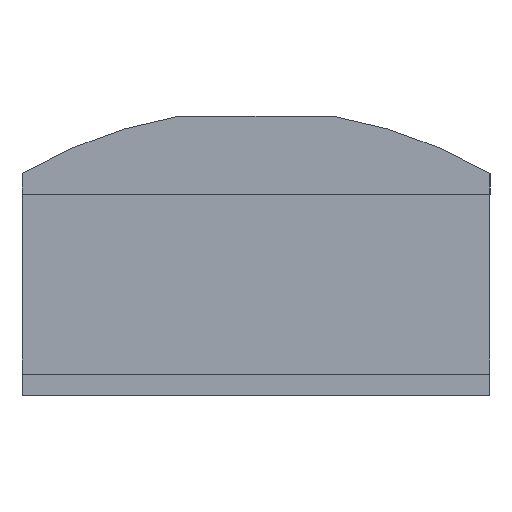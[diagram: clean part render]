
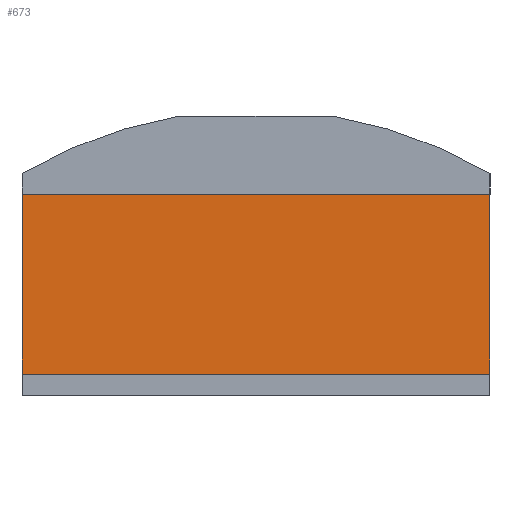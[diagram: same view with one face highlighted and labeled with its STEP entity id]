
A CAD part, left-side view. The second image highlights one B-rep face of the part: STEP entity #673.
In plain terms, the highlighted planar face has unit normal (-1, 0, 0).
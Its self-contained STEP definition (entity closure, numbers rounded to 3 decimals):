
#72 = PLANE('',#73);
#73 = AXIS2_PLACEMENT_3D('',#74,#75,#76);
#74 = CARTESIAN_POINT('',(187.2,-10.802,17.4));
#75 = DIRECTION('',(0.,0.,1.));
#76 = DIRECTION('',(1.,0.,-0.));
#275 = VERTEX_POINT('',#276);
#276 = CARTESIAN_POINT('',(212.8,-10.8,17.4));
#289 = PLANE('',#290);
#290 = AXIS2_PLACEMENT_3D('',#291,#292,#293);
#291 = CARTESIAN_POINT('',(212.8,-10.8,8.1));
#292 = DIRECTION('',(-0.,1.,0.));
#293 = DIRECTION('',(0.,0.,1.));
#301 = EDGE_CURVE('',#275,#302,#304,.T.);
#302 = VERTEX_POINT('',#303);
#303 = CARTESIAN_POINT('',(212.8,10.8,17.4));
#304 = SURFACE_CURVE('',#305,(#309,#315),.PCURVE_S1.);
#305 = LINE('',#306,#307);
#306 = CARTESIAN_POINT('',(212.8,-10.801,17.4));
#307 = VECTOR('',#308,1.);
#308 = DIRECTION('',(-0.,1.,0.));
#309 = PCURVE('',#72,#310);
#310 = DEFINITIONAL_REPRESENTATION('',(#311),#314);
#311 = B_SPLINE_CURVE_WITH_KNOTS('',1,(#312,#313),.UNSPECIFIED.,.F.,.F.,
  (2,2),(0.001,21.601),.PIECEWISE_BEZIER_KNOTS.);
#312 = CARTESIAN_POINT('',(25.6,0.002));
#313 = CARTESIAN_POINT('',(25.6,21.602));
#314 = ( GEOMETRIC_REPRESENTATION_CONTEXT(2) 
PARAMETRIC_REPRESENTATION_CONTEXT() REPRESENTATION_CONTEXT('2D SPACE',''
  ) );
#315 = PCURVE('',#316,#321);
#316 = PLANE('',#317);
#317 = AXIS2_PLACEMENT_3D('',#318,#319,#320);
#318 = CARTESIAN_POINT('',(212.8,-10.8,8.1));
#319 = DIRECTION('',(1.,0.,-0.));
#320 = DIRECTION('',(0.,0.,1.));
#321 = DEFINITIONAL_REPRESENTATION('',(#322),#325);
#322 = B_SPLINE_CURVE_WITH_KNOTS('',1,(#323,#324),.UNSPECIFIED.,.F.,.F.,
  (2,2),(0.001,21.601),.PIECEWISE_BEZIER_KNOTS.);
#323 = CARTESIAN_POINT('',(9.3,0.));
#324 = CARTESIAN_POINT('',(9.3,-21.6));
#325 = ( GEOMETRIC_REPRESENTATION_CONTEXT(2) 
PARAMETRIC_REPRESENTATION_CONTEXT() REPRESENTATION_CONTEXT('2D SPACE',''
  ) );
#342 = PLANE('',#343);
#343 = AXIS2_PLACEMENT_3D('',#344,#345,#346);
#344 = CARTESIAN_POINT('',(212.8,10.8,8.1));
#345 = DIRECTION('',(-0.,1.,0.));
#346 = DIRECTION('',(0.,0.,1.));
#458 = VERTEX_POINT('',#459);
#459 = CARTESIAN_POINT('',(212.8,-10.8,9.1));
#473 = PLANE('',#474);
#474 = AXIS2_PLACEMENT_3D('',#475,#476,#477);
#475 = CARTESIAN_POINT('',(211.6,-10.8,9.1));
#476 = DIRECTION('',(0.,0.,1.));
#477 = DIRECTION('',(1.,0.,-0.));
#485 = EDGE_CURVE('',#458,#275,#486,.T.);
#486 = SURFACE_CURVE('',#487,(#491,#498),.PCURVE_S1.);
#487 = LINE('',#488,#489);
#488 = CARTESIAN_POINT('',(212.8,-10.8,8.1));
#489 = VECTOR('',#490,1.);
#490 = DIRECTION('',(0.,0.,1.));
#491 = PCURVE('',#289,#492);
#492 = DEFINITIONAL_REPRESENTATION('',(#493),#497);
#493 = LINE('',#494,#495);
#494 = CARTESIAN_POINT('',(0.,0.));
#495 = VECTOR('',#496,1.);
#496 = DIRECTION('',(1.,0.));
#497 = ( GEOMETRIC_REPRESENTATION_CONTEXT(2) 
PARAMETRIC_REPRESENTATION_CONTEXT() REPRESENTATION_CONTEXT('2D SPACE',''
  ) );
#498 = PCURVE('',#316,#499);
#499 = DEFINITIONAL_REPRESENTATION('',(#500),#504);
#500 = LINE('',#501,#502);
#501 = CARTESIAN_POINT('',(0.,0.));
#502 = VECTOR('',#503,1.);
#503 = DIRECTION('',(1.,0.));
#504 = ( GEOMETRIC_REPRESENTATION_CONTEXT(2) 
PARAMETRIC_REPRESENTATION_CONTEXT() REPRESENTATION_CONTEXT('2D SPACE',''
  ) );
#513 = VERTEX_POINT('',#514);
#514 = CARTESIAN_POINT('',(212.8,10.8,9.1));
#557 = EDGE_CURVE('',#513,#458,#558,.T.);
#558 = SURFACE_CURVE('',#559,(#563,#569),.PCURVE_S1.);
#559 = LINE('',#560,#561);
#560 = CARTESIAN_POINT('',(212.8,-10.8,9.1));
#561 = VECTOR('',#562,1.);
#562 = DIRECTION('',(0.,-1.,0.));
#563 = PCURVE('',#473,#564);
#564 = DEFINITIONAL_REPRESENTATION('',(#565),#568);
#565 = B_SPLINE_CURVE_WITH_KNOTS('',1,(#566,#567),.UNSPECIFIED.,.F.,.F.,
  (2,2),(-21.6,0.),.PIECEWISE_BEZIER_KNOTS.);
#566 = CARTESIAN_POINT('',(1.2,21.6));
#567 = CARTESIAN_POINT('',(1.2,0.));
#568 = ( GEOMETRIC_REPRESENTATION_CONTEXT(2) 
PARAMETRIC_REPRESENTATION_CONTEXT() REPRESENTATION_CONTEXT('2D SPACE',''
  ) );
#569 = PCURVE('',#316,#570);
#570 = DEFINITIONAL_REPRESENTATION('',(#571),#574);
#571 = B_SPLINE_CURVE_WITH_KNOTS('',1,(#572,#573),.UNSPECIFIED.,.F.,.F.,
  (2,2),(-21.6,0.),.PIECEWISE_BEZIER_KNOTS.);
#572 = CARTESIAN_POINT('',(1.,-21.6));
#573 = CARTESIAN_POINT('',(1.,0.));
#574 = ( GEOMETRIC_REPRESENTATION_CONTEXT(2) 
PARAMETRIC_REPRESENTATION_CONTEXT() REPRESENTATION_CONTEXT('2D SPACE',''
  ) );
#673 = ADVANCED_FACE('',(#674),#316,.F.);
#674 = FACE_BOUND('',#675,.F.);
#675 = EDGE_LOOP('',(#676,#677,#678,#699));
#676 = ORIENTED_EDGE('',*,*,#485,.F.);
#677 = ORIENTED_EDGE('',*,*,#557,.F.);
#678 = ORIENTED_EDGE('',*,*,#679,.T.);
#679 = EDGE_CURVE('',#513,#302,#680,.T.);
#680 = SURFACE_CURVE('',#681,(#685,#692),.PCURVE_S1.);
#681 = LINE('',#682,#683);
#682 = CARTESIAN_POINT('',(212.8,10.8,8.1));
#683 = VECTOR('',#684,1.);
#684 = DIRECTION('',(0.,0.,1.));
#685 = PCURVE('',#316,#686);
#686 = DEFINITIONAL_REPRESENTATION('',(#687),#691);
#687 = LINE('',#688,#689);
#688 = CARTESIAN_POINT('',(0.,-21.6));
#689 = VECTOR('',#690,1.);
#690 = DIRECTION('',(1.,0.));
#691 = ( GEOMETRIC_REPRESENTATION_CONTEXT(2) 
PARAMETRIC_REPRESENTATION_CONTEXT() REPRESENTATION_CONTEXT('2D SPACE',''
  ) );
#692 = PCURVE('',#342,#693);
#693 = DEFINITIONAL_REPRESENTATION('',(#694),#698);
#694 = LINE('',#695,#696);
#695 = CARTESIAN_POINT('',(0.,0.));
#696 = VECTOR('',#697,1.);
#697 = DIRECTION('',(1.,0.));
#698 = ( GEOMETRIC_REPRESENTATION_CONTEXT(2) 
PARAMETRIC_REPRESENTATION_CONTEXT() REPRESENTATION_CONTEXT('2D SPACE',''
  ) );
#699 = ORIENTED_EDGE('',*,*,#301,.F.);
